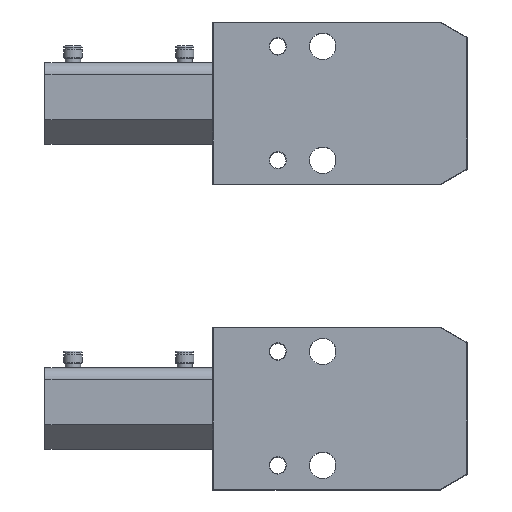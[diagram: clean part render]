
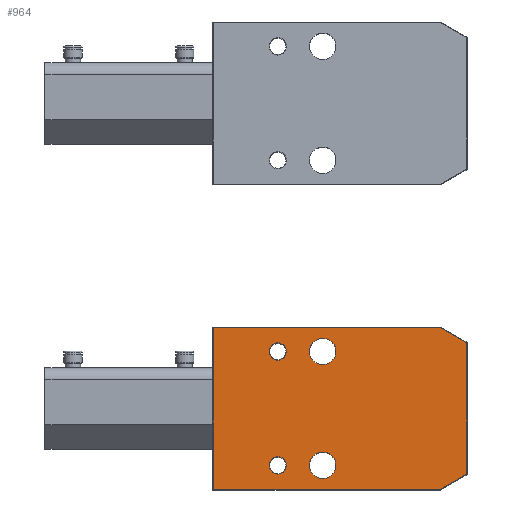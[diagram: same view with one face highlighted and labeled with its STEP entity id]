
A CAD part, top view. The second image highlights one B-rep face of the part: STEP entity #964.
In plain terms, the highlighted planar face has unit normal (0, 0, 1).
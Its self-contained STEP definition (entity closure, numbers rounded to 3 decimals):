
#964=ADVANCED_FACE('',(#2591,#2592,#2593,#2594,#2595),#2596,.F.);
#2591=FACE_OUTER_BOUND('',#5049,.T.);
#2592=FACE_BOUND('',#5050,.T.);
#2593=FACE_BOUND('',#5051,.T.);
#2594=FACE_BOUND('',#5052,.T.);
#2595=FACE_BOUND('',#5053,.T.);
#2596=PLANE('',#5054);
#5049=EDGE_LOOP('',(#8096,#8097,#8098,#8099,#8100,#8101));
#5050=EDGE_LOOP('',(#8102));
#5051=EDGE_LOOP('',(#8103));
#5052=EDGE_LOOP('',(#8104));
#5053=EDGE_LOOP('',(#8105));
#5054=AXIS2_PLACEMENT_3D('',#8106,#8107,#8108);
#8096=ORIENTED_EDGE('',*,*,#15155,.F.);
#8097=ORIENTED_EDGE('',*,*,#15156,.F.);
#8098=ORIENTED_EDGE('',*,*,#15157,.F.);
#8099=ORIENTED_EDGE('',*,*,#15158,.F.);
#8100=ORIENTED_EDGE('',*,*,#15159,.F.);
#8101=ORIENTED_EDGE('',*,*,#15160,.F.);
#8102=ORIENTED_EDGE('',*,*,#15161,.T.);
#8103=ORIENTED_EDGE('',*,*,#15162,.T.);
#8104=ORIENTED_EDGE('',*,*,#15163,.T.);
#8105=ORIENTED_EDGE('',*,*,#15164,.T.);
#8106=CARTESIAN_POINT('',(20.5,315.0,55.0));
#8107=DIRECTION('',(0.0,0.0,-1.0));
#8108=DIRECTION('',(0.0,-1.0,0.0));
#15155=EDGE_CURVE('',#18051,#18052,#18053,.T.);
#15156=EDGE_CURVE('',#18054,#18051,#18055,.T.);
#15157=EDGE_CURVE('',#18056,#18054,#18057,.T.);
#15158=EDGE_CURVE('',#18058,#18056,#18059,.T.);
#15159=EDGE_CURVE('',#18060,#18058,#18061,.T.);
#15160=EDGE_CURVE('',#18052,#18060,#18062,.T.);
#15161=EDGE_CURVE('',#18063,#18063,#18064,.T.);
#15162=EDGE_CURVE('',#18065,#18065,#18066,.T.);
#15163=EDGE_CURVE('',#18067,#18067,#18068,.T.);
#15164=EDGE_CURVE('',#18069,#18069,#18070,.T.);
#18051=VERTEX_POINT('',#22362);
#18052=VERTEX_POINT('',#22363);
#18053=LINE('',#22364,#22365);
#18054=VERTEX_POINT('',#22366);
#18055=LINE('',#22367,#22368);
#18056=VERTEX_POINT('',#22369);
#18057=LINE('',#22370,#22371);
#18058=VERTEX_POINT('',#22372);
#18059=LINE('',#22373,#22374);
#18060=VERTEX_POINT('',#22375);
#18061=LINE('',#22376,#22377);
#18062=LINE('',#22378,#22379);
#18063=VERTEX_POINT('',#22380);
#18064=CIRCLE('',#22381,4.25);
#18065=VERTEX_POINT('',#22382);
#18066=CIRCLE('',#22383,4.25);
#18067=VERTEX_POINT('',#22384);
#18068=CIRCLE('',#22385,6.5);
#18069=VERTEX_POINT('',#22386);
#18070=CIRCLE('',#22387,6.5);
#22362=CARTESIAN_POINT('',(111.933,0.25,55.0));
#22363=CARTESIAN_POINT('',(0.25,0.25,55.0));
#22364=CARTESIAN_POINT('',(52.0,0.25,55.0));
#22365=VECTOR('',#28058,1.0);
#22366=CARTESIAN_POINT('',(124.75,7.65,55.0));
#22367=CARTESIAN_POINT('',(111.875,0.217,55.0));
#22368=VECTOR('',#28059,1.0);
#22369=CARTESIAN_POINT('',(124.75,72.35,55.0));
#22370=CARTESIAN_POINT('',(124.75,23.006,55.0));
#22371=VECTOR('',#28060,1.0);
#22372=CARTESIAN_POINT('',(111.933,79.75,55.0));
#22373=CARTESIAN_POINT('',(124.875,72.278,55.0));
#22374=VECTOR('',#28061,1.0);
#22375=CARTESIAN_POINT('',(0.25,79.75,55.0));
#22376=CARTESIAN_POINT('',(112.0,79.75,55.0));
#22377=VECTOR('',#28062,1.0);
#22378=CARTESIAN_POINT('',(0.25,64.5,55.0));
#22379=VECTOR('',#28063,1.0);
#22380=CARTESIAN_POINT('',(36.25,68.0,55.0));
#22381=AXIS2_PLACEMENT_3D('',#28064,#28065,#28066);
#22382=CARTESIAN_POINT('',(36.25,12.0,55.));
#22383=AXIS2_PLACEMENT_3D('',#28067,#28068,#28069);
#22384=CARTESIAN_POINT('',(60.5,68.0,55.0));
#22385=AXIS2_PLACEMENT_3D('',#28070,#28071,#28072);
#22386=CARTESIAN_POINT('',(60.5,12.0,55.0));
#22387=AXIS2_PLACEMENT_3D('',#28073,#28074,#28075);
#28058=DIRECTION('',(-1.0,0.0,0.0));
#28059=DIRECTION('',(-0.866,-0.5,0.0));
#28060=DIRECTION('',(0.0,-1.0,0.0));
#28061=DIRECTION('',(0.866,-0.5,0.0));
#28062=DIRECTION('',(1.0,0.0,0.0));
#28063=DIRECTION('',(0.0,1.0,0.0));
#28064=CARTESIAN_POINT('',(32.0,68.0,55.0));
#28065=DIRECTION('',(0.0,0.0,-1.0));
#28066=DIRECTION('',(1.0,0.0,0.0));
#28067=CARTESIAN_POINT('',(32.0,12.0,55.));
#28068=DIRECTION('',(0.0,0.0,-1.0));
#28069=DIRECTION('',(1.0,0.0,0.0));
#28070=CARTESIAN_POINT('',(54.0,68.0,55.0));
#28071=DIRECTION('',(0.0,0.0,-1.0));
#28072=DIRECTION('',(1.0,0.0,0.0));
#28073=CARTESIAN_POINT('',(54.0,12.0,55.0));
#28074=DIRECTION('',(0.0,0.0,-1.0));
#28075=DIRECTION('',(1.0,0.0,0.0));
